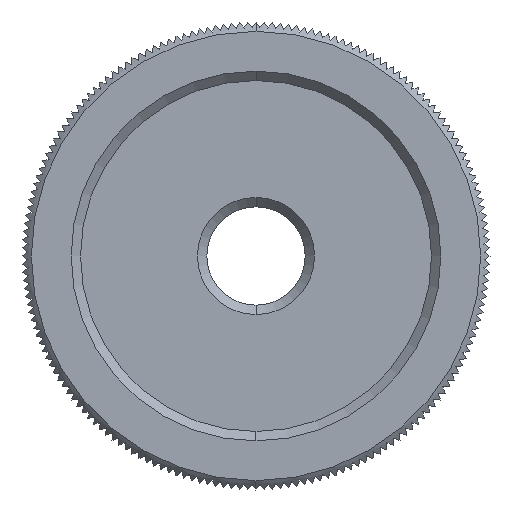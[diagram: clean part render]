
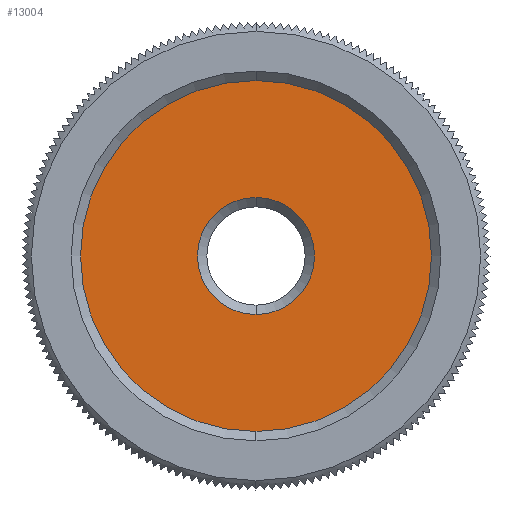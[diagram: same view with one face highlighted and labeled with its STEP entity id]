
A CAD part, left-side view. The second image highlights one B-rep face of the part: STEP entity #13004.
In plain terms, the highlighted planar face has unit normal (-1, 0, 0).
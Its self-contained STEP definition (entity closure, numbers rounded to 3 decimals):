
#290 = EDGE_CURVE ( 'NONE', #291, #297, #4124, .T. ) ;
#291 = VERTEX_POINT ( 'NONE', #4120 ) ;
#297 = VERTEX_POINT ( 'NONE', #4115 ) ;
#4115 = CARTESIAN_POINT ( 'NONE',  ( -3., 0., -2.5 ) ) ;
#4120 = CARTESIAN_POINT ( 'NONE',  ( -3., 0., 2.5 ) ) ;
#4121 = DIRECTION ( 'NONE',  ( 0., 0., 1. ) ) ;
#4122 = DIRECTION ( 'NONE',  ( 1., 0., 0. ) ) ;
#4123 = AXIS2_PLACEMENT_3D ( 'NONE', #4129, #4122, #4121 ) ;
#4124 = CIRCLE ( 'NONE', #4123, 2.5 ) ;
#4129 = CARTESIAN_POINT ( 'NONE',  ( -3., 0., 0. ) ) ;
#11452 = CARTESIAN_POINT ( 'NONE',  ( -3., 0., -7.5 ) ) ;
#11453 = CARTESIAN_POINT ( 'NONE',  ( -3., 0., 7.5 ) ) ;
#11519 = DIRECTION ( 'NONE',  ( 0., 0., 1. ) ) ;
#11520 = DIRECTION ( 'NONE',  ( -1., 0., 0. ) ) ;
#11521 = CARTESIAN_POINT ( 'NONE',  ( -3., 0., 0. ) ) ;
#11522 = AXIS2_PLACEMENT_3D ( 'NONE', #11521, #11520, #11519 ) ;
#11523 = CIRCLE ( 'NONE', #11522, 7.5 ) ;
#11650 = DIRECTION ( 'NONE',  ( 0., 0., 1. ) ) ;
#11651 = DIRECTION ( 'NONE',  ( -1., 0., 0. ) ) ;
#11652 = CARTESIAN_POINT ( 'NONE',  ( -3., 0., 0. ) ) ;
#11654 = AXIS2_PLACEMENT_3D ( 'NONE', #11652, #11651, #11650 ) ;
#11655 = PLANE ( 'NONE',  #11654 ) ;
#11656 = FACE_OUTER_BOUND ( 'NONE', #12992, .T. ) ;
#11657 = FACE_BOUND ( 'NONE', #13009, .T. ) ;
#11659 = DIRECTION ( 'NONE',  ( 0., 0., 1. ) ) ;
#11661 = DIRECTION ( 'NONE',  ( 1., 0., 0. ) ) ;
#11662 = AXIS2_PLACEMENT_3D ( 'NONE', #11669, #11661, #11659 ) ;
#11664 = CIRCLE ( 'NONE', #11662, 2.5 ) ;
#11665 = DIRECTION ( 'NONE',  ( 0., 0., 1. ) ) ;
#11666 = DIRECTION ( 'NONE',  ( -1., 0., 0. ) ) ;
#11667 = AXIS2_PLACEMENT_3D ( 'NONE', #11674, #11666, #11665 ) ;
#11668 = CIRCLE ( 'NONE', #11667, 7.5 ) ;
#11669 = CARTESIAN_POINT ( 'NONE',  ( -3., 0., 0. ) ) ;
#11674 = CARTESIAN_POINT ( 'NONE',  ( -3., 0., 0. ) ) ;
#12873 = VERTEX_POINT ( 'NONE', #11453 ) ;
#12874 = VERTEX_POINT ( 'NONE', #11452 ) ;
#12917 = EDGE_CURVE ( 'NONE', #12874, #12873, #11523, .T. ) ;
#12989 = EDGE_CURVE ( 'NONE', #12873, #12874, #11668, .T. ) ;
#12990 = ORIENTED_EDGE ( 'NONE', *, *, #12989, .T. ) ;
#12992 = EDGE_LOOP ( 'NONE', ( #12990, #13033 ) ) ;
#12994 = EDGE_CURVE ( 'NONE', #297, #291, #11664, .T. ) ;
#12996 = ORIENTED_EDGE ( 'NONE', *, *, #12994, .T. ) ;
#13004 = ADVANCED_FACE ( 'NONE', ( #11657, #11656 ), #11655, .T. ) ;
#13009 = EDGE_LOOP ( 'NONE', ( #13010, #12996 ) ) ;
#13010 = ORIENTED_EDGE ( 'NONE', *, *, #290, .T. ) ;
#13033 = ORIENTED_EDGE ( 'NONE', *, *, #12917, .T. ) ;
